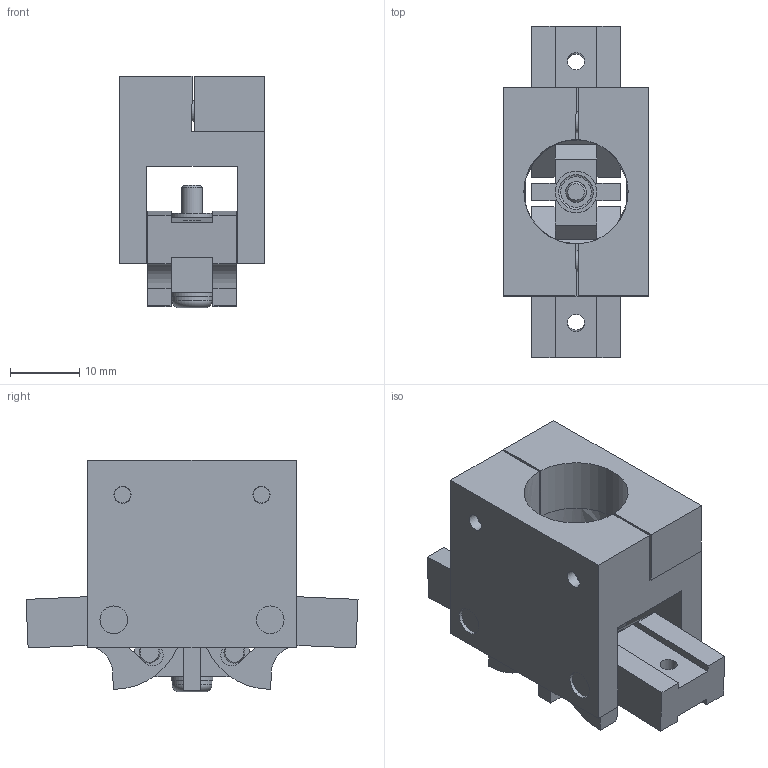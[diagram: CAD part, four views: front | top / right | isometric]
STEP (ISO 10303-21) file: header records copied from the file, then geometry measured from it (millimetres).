
FILE_DESCRIPTION((''),'2;1');
FILE_NAME('C:\Test\stp\3000006-2.stp','2006-04-11T12:57:25',('is'),(''),'Autodesk Inventor 10','Autodesk Inventor 10','');
FILE_SCHEMA(('AUTOMOTIVE_DESIGN { 1 0 10303 214 1 1 1 1 }'));
Length unit declared in the file: millimetre
Products named in the file (1): 3000006-2
Bounding box: 21 x 47.78 x 33.37 mm (x, y, z)
Volume: 13184.8 mm3; surface area: 8917.5 mm2
Topology: 1 solids, 1 shells, 237 faces, 638 edges, 408 vertices
Faces by surface type: plane 159, cylinder 39, bspline 23, cone 15, torus 1
Full cylindrical faces by diameter (mm): 2.95 x1, 3 x6, 5.5 x2, 5.7 x1, 6 x2, 7 x4
Entity records: 7503 total; most frequent: CARTESIAN_POINT 1694, DIRECTION 1179, ORIENTED_EDGE 1178, EDGE_CURVE 589, AXIS2_PLACEMENT_3D 395, VERTEX_POINT 393, VECTOR 389, LINE 389
